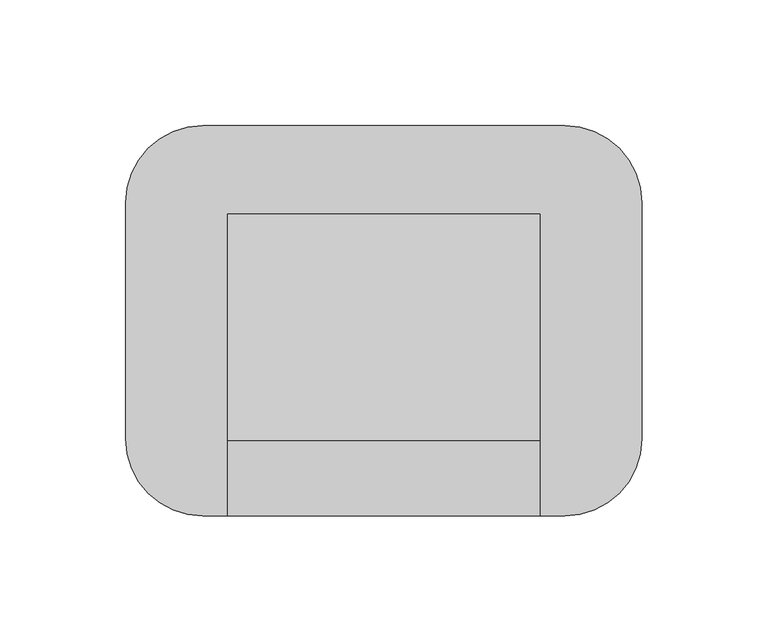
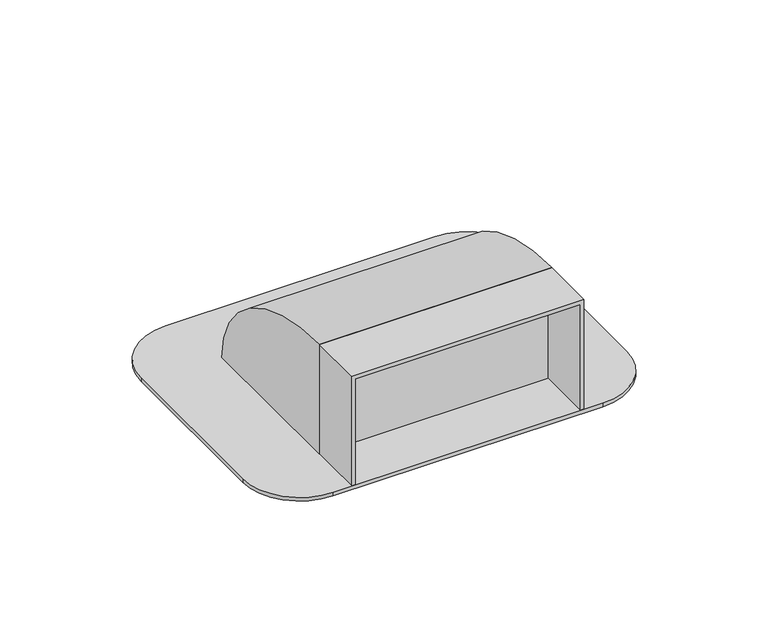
"""IFC4 building model written with IfcOpenShell, lengths in millimetres: duct fitting geometry, КНС_ВводВСтенуПодУглом_DKC : Ввод в стену."""

import ifcopenshell
import ifcopenshell.guid

model = None  # the IFC model being written
_history = None  # IfcOwnerHistory: only IFC2X3 demands one
_inside = {}  # id of a spatial element -> (the spatial element, [elements in it])
_under = {}  # id of a project, library or spatial element -> (it, [spatial elements below it])
_declared = {}  # id of a project -> (the project, [libraries it declares])
_typed = {}  # id of a type object -> (the type object, [elements of that type])
_made_of = {}  # id of a material, layer set ... -> (it, [elements and type objects made of it])


def new_model(schema):
    """Start an empty IFC model of exactly this schema.

    Asked for "IFC4X3", IfcOpenShell would pick the latest addendum, in which some entities
    have other attributes; the version numbers below select the first issue.
    IFC2X3 requires an IfcOwnerHistory on every rooted entity: one is made here for all.
    """
    global model, _history
    if schema == "IFC4X3":
        model = ifcopenshell.file(schema_version=(4, 3, 0, 0))
    else:
        model = ifcopenshell.file(schema=schema)
    _inside.clear()
    _under.clear()
    _declared.clear()
    _typed.clear()
    _made_of.clear()
    _history = None
    if model.schema == "IFC2X3":
        org = make("IfcOrganization", Name="unknown")
        user = make(
            "IfcPersonAndOrganization",
            ThePerson=make("IfcPerson", FamilyName="unknown"),
            TheOrganization=org,
        )
        app = make(
            "IfcApplication",
            ApplicationDeveloper=org,
            Version="unknown",
            ApplicationFullName="unknown",
            ApplicationIdentifier="unknown",
        )
        _history = make(
            "IfcOwnerHistory",
            OwningUser=user,
            OwningApplication=app,
            ChangeAction="ADDED",
            CreationDate=0,
        )
    return model


def make(cls, **values):
    """One entity of the class cls with the attributes given. An attribute that is None is left unset."""
    return model.create_entity(
        cls, **{name: value for name, value in values.items() if value is not None}
    )


def rooted(cls, **values):
    """An entity with a GlobalId (a new one), such as an element, a storey or a relation."""
    return make(cls, GlobalId=ifcopenshell.guid.new(), OwnerHistory=_history, **values)


def si_unit(unit_type, name, prefix=None):
    """IfcSIUnit, for example si_unit("LENGTHUNIT", "METRE", prefix="MILLI")."""
    return make("IfcSIUnit", UnitType=unit_type, Prefix=prefix, Name=name)


def assignment(units):
    """IfcUnitAssignment: the units of a project."""
    return None if units is None else make("IfcUnitAssignment", Units=units)


def point(xyz):
    """IfcCartesianPoint."""
    return None if xyz is None else make("IfcCartesianPoint", Coordinates=xyz)


def direction(xyz):
    """IfcDirection."""
    return None if xyz is None else make("IfcDirection", DirectionRatios=xyz)


def frame(location, z_axis=None, x_axis=None):
    """IfcAxis2Placement3D, a coordinate frame: its origin and axes. An axis left out is left unset."""
    return make(
        "IfcAxis2Placement3D",
        Location=point(location),
        Axis=direction(z_axis),
        RefDirection=direction(x_axis),
    )


def frame_2d(location, x_axis=None):
    """IfcAxis2Placement2D, a coordinate frame in the plane: its origin and x axis."""
    return make(
        "IfcAxis2Placement2D", Location=point(location), RefDirection=direction(x_axis)
    )


def origin():
    """The frame at (0, 0, 0) with its axes left unset."""
    return frame((0.0, 0.0, 0.0))


def place(relative_to, where):
    """IfcLocalPlacement: puts the frame where relative to a parent placement (None: the world)."""
    return make(
        "IfcLocalPlacement", PlacementRelTo=relative_to, RelativePlacement=where
    )


def context(
    kind, dimensions, precision=None, world=None, true_north=None, identifier=None
):
    """IfcGeometricRepresentationContext, for example the 3D "Model" context."""
    return make(
        "IfcGeometricRepresentationContext",
        ContextIdentifier=identifier,
        ContextType=kind,
        CoordinateSpaceDimension=dimensions,
        Precision=precision,
        WorldCoordinateSystem=world,
        TrueNorth=true_north,
    )


def project(units=None, contexts=None):
    """IfcProject with its units and contexts."""
    return rooted(
        "IfcProject",
        Name="project",
        RepresentationContexts=contexts,
        UnitsInContext=assignment(units),
    )


def spatial(cls, under=None, at=None, **own):
    """A site, building, storey or space (cls), placed at a placement, below another one or the project."""
    s = rooted(cls, ObjectPlacement=at, **own)
    if under is not None:
        _under.setdefault(under.id(), (under, []))[1].append(s)
    return s


def polyline(points):
    """IfcPolyline through the points."""
    return make("IfcPolyline", Points=[point(p) for p in points])


def circle_curve(where, radius):
    """IfcCircle in the frame where."""
    return make("IfcCircle", Position=where, Radius=radius)


def ellipse_curve(where, semi_axis1, semi_axis2):
    """IfcEllipse in the frame where."""
    return make(
        "IfcEllipse", Position=where, SemiAxis1=semi_axis1, SemiAxis2=semi_axis2
    )


def trimmed(basis, trim1, trim2, sense, master):
    """IfcTrimmedCurve: the piece of a basis curve between two trims."""
    return make(
        "IfcTrimmedCurve",
        BasisCurve=basis,
        Trim1=trim1,
        Trim2=trim2,
        SenseAgreement=sense,
        MasterRepresentation=master,
    )


def segment(curve, same_sense, transition):
    """IfcCompositeCurveSegment."""
    return make(
        "IfcCompositeCurveSegment",
        Transition=transition,
        SameSense=same_sense,
        ParentCurve=curve,
    )


def composite_curve(segments, self_intersect=None):
    """IfcCompositeCurve: segments joined end to end."""
    return make("IfcCompositeCurve", Segments=segments, SelfIntersect=self_intersect)


def outline(outer, holes=None, kind="AREA"):
    """IfcArbitraryClosedProfileDef: a profile drawn as a closed curve; with holes, ...WithVoids."""
    if holes is None:
        return make("IfcArbitraryClosedProfileDef", ProfileType=kind, OuterCurve=outer)
    return make(
        "IfcArbitraryProfileDefWithVoids",
        ProfileType=kind,
        OuterCurve=outer,
        InnerCurves=holes,
    )


def extrude(swept, where, along, depth):
    """IfcExtrudedAreaSolid: the profile swept, set in the frame where, extruded along a direction by depth."""
    return make(
        "IfcExtrudedAreaSolid",
        SweptArea=swept,
        Position=where,
        ExtrudedDirection=direction(along),
        Depth=depth,
    )


def shape(context_of_items, identifier, shape_type, items):
    """IfcShapeRepresentation: the items that make up one representation, for example the "Body"."""
    return make(
        "IfcShapeRepresentation",
        ContextOfItems=context_of_items,
        RepresentationIdentifier=identifier,
        RepresentationType=shape_type,
        Items=items,
    )


def source(mapping_origin, context_of_items, identifier, shape_type, items):
    """IfcRepresentationMap: a shape defined once, which mapped items show again and again."""
    return make(
        "IfcRepresentationMap",
        MappingOrigin=mapping_origin,
        MappedRepresentation=shape(context_of_items, identifier, shape_type, items),
    )


def transform(
    local_origin,
    x_axis=None,
    y_axis=None,
    z_axis=None,
    scale=None,
    scale2=None,
    scale3=None,
    uniform=True,
):
    """IfcCartesianTransformationOperator3D, or its non-uniform kind. x_axis, y_axis, z_axis: its Axis1, 2, 3."""
    if uniform:
        return make(
            "IfcCartesianTransformationOperator3D",
            Axis1=direction(x_axis),
            Axis2=direction(y_axis),
            LocalOrigin=point(local_origin),
            Scale=scale,
            Axis3=direction(z_axis),
        )
    return make(
        "IfcCartesianTransformationOperator3DnonUniform",
        Axis1=direction(x_axis),
        Axis2=direction(y_axis),
        LocalOrigin=point(local_origin),
        Scale=scale,
        Axis3=direction(z_axis),
        Scale2=scale2,
        Scale3=scale3,
    )


def mapped(mapping_source, mapping_target):
    """IfcMappedItem: shows the shape of a source again, moved by a transform."""
    return make(
        "IfcMappedItem", MappingSource=mapping_source, MappingTarget=mapping_target
    )


def made_of(thing, what):
    """Note that an element or type object is made of a material, layer set ...; save() writes the relation."""
    if what is not None:
        _made_of.setdefault(what.id(), (what, []))[1].append(thing)
    return thing


def element(
    cls,
    number,
    at=None,
    inside=None,
    cuts=None,
    type_object=None,
    material=None,
    context=None,
    identifier="Body",
    shape_type=None,
    held_by="IfcProductDefinitionShape",
    body=None,
    shapes=None,
    **own,
):
    """One element of the class cls, such as IfcWall. Its Tag is "e" and its number.

    at: its placement. inside: the storey or other place that contains it. cuts: it is an
    opening in that element (IfcRelVoidsElement). A single representation is given by context,
    identifier, shape_type and body (its items); several are given by shapes. held_by: the class
    of the entity that holds the representations. save() writes the other relations.
    """
    e = rooted(cls, Tag="e%d" % number, ObjectPlacement=at, **own)
    if body is not None:
        shapes = [shape(context, identifier, shape_type, body)]
    if shapes is not None:
        e.Representation = make(held_by, Representations=shapes)
    if inside is not None:
        _inside.setdefault(inside.id(), (inside, []))[1].append(e)
    if cuts is not None:
        rooted(
            "IfcRelVoidsElement", RelatingBuildingElement=cuts, RelatedOpeningElement=e
        )
    if type_object is not None:
        _typed.setdefault(type_object.id(), (type_object, []))[1].append(e)
    return made_of(e, material)


def aggregate(whole, parts):
    """IfcRelAggregates: a whole, such as a stair, and the parts it consists of."""
    return rooted("IfcRelAggregates", RelatingObject=whole, RelatedObjects=parts)


def save(model, path):
    """Write the relations noted so far, then the file.

    IfcRelAggregates (storeys below a building ...), IfcRelContainedInSpatialStructure (elements
    in a storey), IfcRelDefinesByType, IfcRelAssociatesMaterial and IfcRelDeclares: one each for
    every whole, place, type object, material and project.
    """
    for whole, parts in _under.values():
        aggregate(whole, parts)
    for where, things in _inside.values():
        rooted(
            "IfcRelContainedInSpatialStructure",
            RelatedElements=things,
            RelatingStructure=where,
        )
    for kind, things in _typed.values():
        rooted("IfcRelDefinesByType", RelatedObjects=things, RelatingType=kind)
    for what, things in _made_of.values():
        rooted("IfcRelAssociatesMaterial", RelatedObjects=things, RelatingMaterial=what)
    for by, libraries in _declared.values():
        rooted("IfcRelDeclares", RelatingContext=by, RelatedDefinitions=libraries)
    model.write(path)


def plane_surface(at):
    """IfcPlane: the flat surface through the origin of the frame at, square to its z axis."""
    return make("IfcPlane", Position=at)


def extruded_surface(curve, direction_of_extrusion, depth):
    """IfcSurfaceOfLinearExtrusion: the curve pushed along a direction by depth."""
    return make(
        "IfcSurfaceOfLinearExtrusion",
        SweptCurve=make("IfcArbitraryOpenProfileDef", ProfileType="CURVE", Curve=curve),
        ExtrudedDirection=direction(direction_of_extrusion),
        Depth=depth,
    )


def advanced_brep(points, edges, surfaces, faces):
    """IfcAdvancedBrep: a solid bounded by faces that lie on surfaces and meet in shared edges.

    An edge is (start, end): straight between two places in points (the first is 0);
    or (start, end, curve); or (start, end, curve, False) where it runs against its curve.
    A face is (place in surfaces, loops), or (place, loops, False) where it looks against
    its surface's normal. A loop lists edges by number (the first is 1), with a minus sign
    where the edge is run from its end to its start. The first loop is the outer one.
    """
    corners = [point(p) for p in points]
    vertices = [make("IfcVertexPoint", VertexGeometry=c) for c in corners]
    made = []
    for start, end, *more in edges:
        made.append(
            make(
                "IfcEdgeCurve",
                EdgeStart=vertices[start],
                EdgeEnd=vertices[end],
                EdgeGeometry=more[0] if more else make("IfcPolyline", Points=[corners[start], corners[end]]),
                SameSense=more[1] if len(more) > 1 else True,
            )
        )
    hull = []
    for where, loops, *sense in faces:
        bounds = []
        for j, loop in enumerate(loops):
            ring = [make("IfcOrientedEdge", EdgeElement=made[abs(k) - 1], Orientation=k > 0) for k in loop]
            bounds.append(
                make(
                    "IfcFaceOuterBound" if j == 0 else "IfcFaceBound",
                    Bound=make("IfcEdgeLoop", EdgeList=ring),
                    Orientation=True,
                )
            )
        hull.append(make("IfcAdvancedFace", Bounds=bounds, FaceSurface=surfaces[where], SameSense=sense[0] if sense else True))
    return make("IfcAdvancedBrep", Outer=make("IfcClosedShell", CfsFaces=hull))


def duct_fitting_436bfc67(model_context):
    return source(origin(), model_context, "Body", "SolidModel", [
        advanced_brep(
        [(62.0, 30.0, 32.0), (62.0, 30.0, -30.0), (62.0, 120.0, -30.0), (-62.0, 30.0, 32.0), (-62.0, 120.0, -30.0), (-62.0, 30.0, -30.0)],
        [
            (0, 1),
            (1, 2),
            (2, 0, ellipse_curve(frame((62.0, 30.0, -30.0), z_axis=(1.0, 0.0, 0.0), x_axis=(0.0, 1.0, 0.0)), 90.0, 62.0)),
            (3, 4, ellipse_curve(frame((-62.0, 30.0, -30.0), z_axis=(-1.0, 0.0, 0.0), x_axis=(0.0, 0.0, -1.0)), 62.0, 90.0)),
            (4, 5),
            (5, 3),
            (0, 3),
            (5, 1),
            (4, 2),
        ],
        [
            plane_surface(frame((62.0, 30.0, 32.0), z_axis=(1.0, 0.0, 0.0), x_axis=(0.0, 0.0, -1.0))),
            plane_surface(frame((-62.0, 30.0, 32.0), z_axis=(-1.0, 0.0, 0.0), x_axis=(0.0, 0.0, 1.0))),
            plane_surface(frame((62.0, 30.0, 32.0), z_axis=(0.0, -1.0, 0.0), x_axis=(-1.0, 0.0, 0.0))),
            plane_surface(frame((62.0, 30.0, -30.0), z_axis=(0.0, 0.0, -1.0), x_axis=(-1.0, 0.0, 0.0))),
            extruded_surface(trimmed(ellipse_curve(frame((-186.0, 30.0, -30.0), z_axis=(1.0, 0.0, 0.0), x_axis=(0.0, 0.0, -1.0)), 62.0, 90.0), [point((-186.0, 120.0, -30.0))], [point((-186.0, 30.0, 32.0))], True, "CARTESIAN"), (124.0, 0.0, 0.0), 124.0),
        ],
        [
            (0, [[1, 2, 3]]),
            (1, [[4, 5, 6]]),
            (2, [[-1, 7, -6, 8]]),
            (3, [[-2, -8, -5, 9]]),
            (4, [[-3, -9, -4, -7]]),
        ],
    ),
        extrude(outline(composite_curve([segment(trimmed(circle_curve(frame_2d((72.0, 124.5)), 30.5), [point((72.0, 155.0))], [point((102.5, 124.5))], False, "CARTESIAN"), True, "CONTINUOUS"), segment(polyline([(102.5, 124.5), (102.5, 30.5)]), True, "CONTINUOUS"), segment(trimmed(circle_curve(frame_2d((72.0, 30.5)), 30.5), [point((102.5, 30.5))], [point((72.0, 0.0))], False, "CARTESIAN"), True, "CONTINUOUS"), segment(polyline([(72.0, 0.0), (-72.0, 0.0)]), True, "CONTINUOUS"), segment(trimmed(circle_curve(frame_2d((-72.0, 30.5)), 30.5), [point((-72.0, 0.0))], [point((-102.5, 30.5))], False, "CARTESIAN"), True, "CONTINUOUS"), segment(polyline([(-102.5, 30.5), (-102.5, 124.5)]), True, "CONTINUOUS"), segment(trimmed(circle_curve(frame_2d((-72.0, 124.5)), 30.5), [point((-102.5, 124.5))], [point((-72.0, 155.0))], False, "CARTESIAN"), True, "CONTINUOUS"), segment(polyline([(-72.0, 155.0), (72.0, 155.0)]), True, "CONTINUOUS")], self_intersect=False)), frame((0.0, 0.0, -32.0), z_axis=(0.0, 0.0, 1.0), x_axis=(1.0, 0.0, 0.0)), (0.0, 0.0, 1.0), 2.0),
        extrude(outline(polyline([(-30.0, -60.0), (30.0, -60.0), (30.0, 60.0), (-30.0, 60.0), (-30.0, 62.0), (32.0, 62.0), (32.0, -62.0), (-30.0, -62.0), (-30.0, -60.0)])), frame((0.0, 0.0, 0.0), z_axis=(0.0, 1.0, 0.0), x_axis=(0.0, 0.0, 1.0)), (0.0, 0.0, 1.0), 30.0),
    ])


if __name__ == "__main__":
    model = new_model("IFC4")
    model_context = context("Model", 3, world=origin())
    ifc_project = project(units=[si_unit("LENGTHUNIT", "METRE", prefix="MILLI")], contexts=[model_context])
    site = spatial("IfcSite", under=ifc_project)
    building = spatial("IfcBuilding", under=site)
    placement = place(None, origin())
    duct_fitting_shape = duct_fitting_436bfc67(model_context)
    element("IfcDuctFitting", 1, ObjectType="КНС_ВводВСтенуПодУглом_DKC : Ввод в стену", at=placement, inside=building, context=model_context, shape_type="MappedRepresentation", body=[
        mapped(duct_fitting_shape, transform((0.0, 0.0, 0.0), x_axis=(1.0, 0.0, 0.0), y_axis=(0.0, 1.0, 0.0), z_axis=(0.0, 0.0, 1.0))),
    ])
    save(model, "model.ifc")
